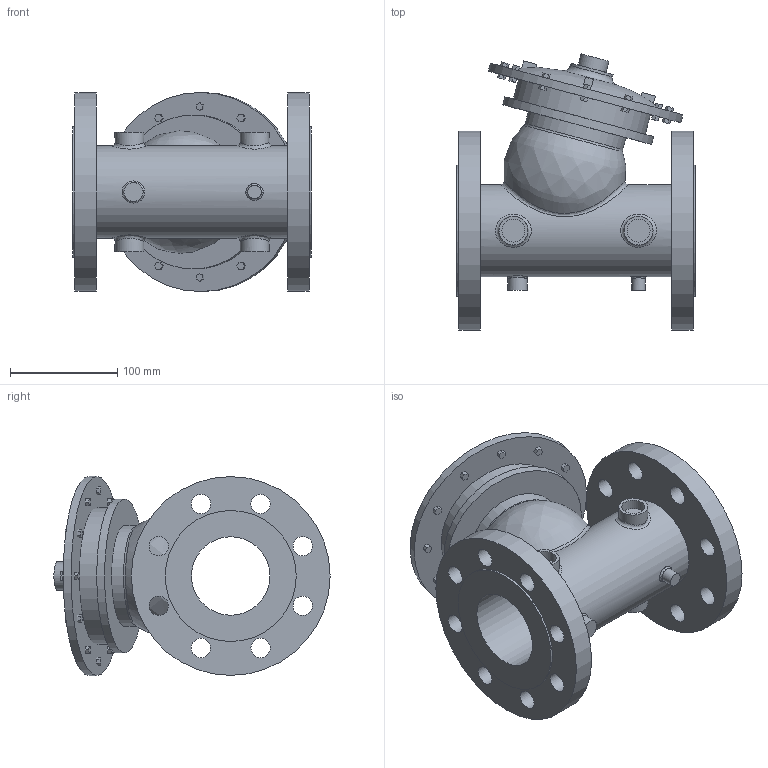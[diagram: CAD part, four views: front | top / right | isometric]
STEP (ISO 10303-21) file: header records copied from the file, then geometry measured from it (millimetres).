
FILE_DESCRIPTION(/* description */ ('VIC FP VALVE PRESSURE RELIEF SERIES 867-7UF (PN25)','CAx-IF Rec.Pracs.---Representation and Presentation of Product Manufacturing Information (PMI)---4.0---2014-10-13'),/* implementation_level */ '2;1');
FILE_NAME(/* name */ 'C:\Series 867-7UF\New folder (2)\step\Victaulic_FP-Bermad_Valve Pressure Relief_Series 867-7UF (PN25)\Victaulic_FP-Bermad_Valve Pressure Relief_Series 867-7UF (PN25)_2.5 (65).stp',/* time_stamp */ '2021-09-02T12:55:56+05:00',/* author */ ('kkamble'),/* organization */ ('Victaulic'),/* preprocessor_version */ 'ST-DEVELOPER v17.2',/* originating_system */ 'Autodesk Inventor 2019',/* authorisation */ '');
FILE_SCHEMA (('AP242_MANAGED_MODEL_BASED_3D_ENGINEERING_MIM_LF { 1 0 10303 442 1 1 4 }'));
Length unit declared in the file: inch
Products named in the file (1): 867-7UF-02.5
Bounding box: 222 x 257 x 185.42 mm (x, y, z)
Volume: 2442344 mm3; surface area: 320460.3 mm2
Topology: 1 solids, 1 shells, 260 faces, 662 edges, 449 vertices
Faces by surface type: plane 210, cylinder 39, bspline 9, torus 2
Full cylindrical faces by diameter (mm): 12.7 x1, 17.78 x1, 18.034 x16, 21.336 x4, 26.67 x1, 26.873 x4, 40.64 x1, 73.025 x1, 85.725 x1, 93.98 x1, 121.92 x2, 127 x1, 143.256 x1, 184.912 x2, 185.42 x1
Entity records: 9405 total; most frequent: CARTESIAN_POINT 2586, ORIENTED_EDGE 1336, DIRECTION 1263, EDGE_CURVE 668, LINE 511, VECTOR 511, VERTEX_POINT 455, AXIS2_PLACEMENT_3D 376
